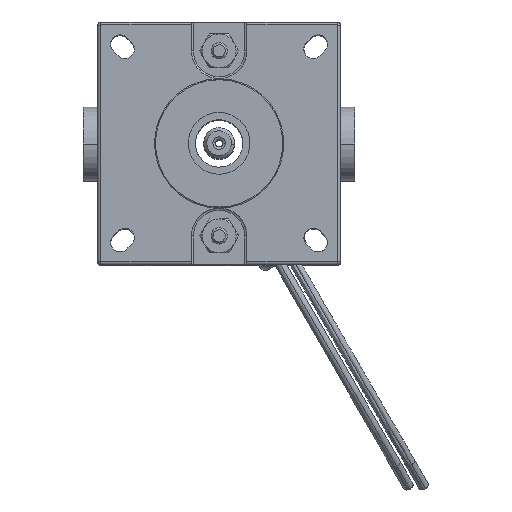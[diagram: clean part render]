
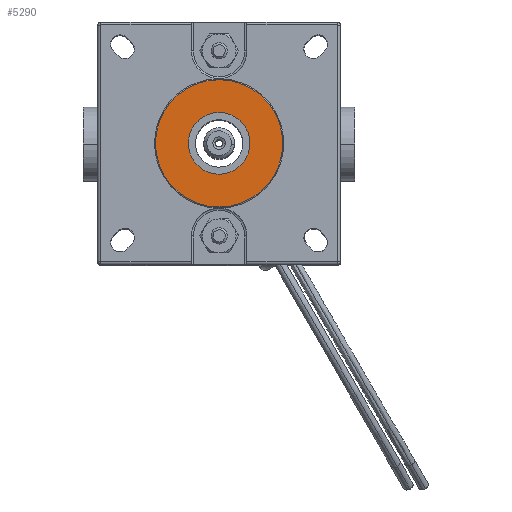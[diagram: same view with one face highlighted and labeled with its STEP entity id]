
A CAD part, top view. The second image highlights one B-rep face of the part: STEP entity #5290.
In plain terms, the highlighted planar face has unit normal (0, 0, 1).
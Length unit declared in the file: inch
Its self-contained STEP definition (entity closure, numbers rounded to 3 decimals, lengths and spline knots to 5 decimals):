
#5263 = VERTEX_POINT ( 'NONE', #9827 ) ;
#5265 = EDGE_CURVE ( 'NONE', #5263, #5267, #9844, .T. ) ;
#5267 = VERTEX_POINT ( 'NONE', #9810 ) ;
#5289 = EDGE_CURVE ( 'NONE', #5267, #5263, #9975, .T. ) ;
#5290 = ADVANCED_FACE ( 'NONE', ( #9906, #9974 ), #9909, .T. ) ;
#5291 = EDGE_LOOP ( 'NONE', ( #5336, #5337 ) ) ;
#5308 = VERTEX_POINT ( 'NONE', #9884 ) ;
#5317 = EDGE_CURVE ( 'NONE', #5318, #5308, #9940, .T. ) ;
#5318 = VERTEX_POINT ( 'NONE', #9936 ) ;
#5336 = ORIENTED_EDGE ( 'NONE', *, *, #5289, .F. ) ;
#5337 = ORIENTED_EDGE ( 'NONE', *, *, #5265, .F. ) ;
#5338 = EDGE_LOOP ( 'NONE', ( #5416, #5417 ) ) ;
#5416 = ORIENTED_EDGE ( 'NONE', *, *, #5317, .T. ) ;
#5417 = ORIENTED_EDGE ( 'NONE', *, *, #5418, .T. ) ;
#5418 = EDGE_CURVE ( 'NONE', #5308, #5318, #10129, .T. ) ;
#9810 = CARTESIAN_POINT ( 'NONE',  ( 0.3125, 0., 5.0175 ) ) ;
#9811 = DIRECTION ( 'NONE',  ( 1., 0., 0. ) ) ;
#9824 = DIRECTION ( 'NONE',  ( 0., 0., 1. ) ) ;
#9825 = CARTESIAN_POINT ( 'NONE',  ( 0., 0., 5.0175 ) ) ;
#9826 = AXIS2_PLACEMENT_3D ( 'NONE', #9825, #9824, #9811 ) ;
#9827 = CARTESIAN_POINT ( 'NONE',  ( -0.3125, 0., 5.0175 ) ) ;
#9844 = CIRCLE ( 'NONE', #9826, 0.3125 ) ;
#9884 = CARTESIAN_POINT ( 'NONE',  ( -0.645, 0., 5.0175 ) ) ;
#9905 = CARTESIAN_POINT ( 'NONE',  ( 0., 0., 5.0175 ) ) ;
#9906 = FACE_BOUND ( 'NONE', #5291, .T. ) ;
#9907 = DIRECTION ( 'NONE',  ( 0., 0., 1. ) ) ;
#9908 = DIRECTION ( 'NONE',  ( 1., 0., 0. ) ) ;
#9909 = PLANE ( 'NONE',  #9911 ) ;
#9910 = CARTESIAN_POINT ( 'NONE',  ( 0., 0., 5.0175 ) ) ;
#9911 = AXIS2_PLACEMENT_3D ( 'NONE', #9910, #9912, #9913 ) ;
#9912 = DIRECTION ( 'NONE',  ( 0., 0., 1. ) ) ;
#9913 = DIRECTION ( 'NONE',  ( 1., 0., 0. ) ) ;
#9936 = CARTESIAN_POINT ( 'NONE',  ( 0.645, 0., 5.0175 ) ) ;
#9937 = DIRECTION ( 'NONE',  ( 1., 0., 0. ) ) ;
#9938 = DIRECTION ( 'NONE',  ( 0., 0., 1. ) ) ;
#9939 = AXIS2_PLACEMENT_3D ( 'NONE', #9945, #9938, #9937 ) ;
#9940 = CIRCLE ( 'NONE', #9939, 0.645 ) ;
#9945 = CARTESIAN_POINT ( 'NONE',  ( 0., 0., 5.0175 ) ) ;
#9974 = FACE_OUTER_BOUND ( 'NONE', #5338, .T. ) ;
#9975 = CIRCLE ( 'NONE', #9978, 0.3125 ) ;
#9978 = AXIS2_PLACEMENT_3D ( 'NONE', #9905, #9907, #9908 ) ;
#10121 = DIRECTION ( 'NONE',  ( 1., 0., 0. ) ) ;
#10122 = DIRECTION ( 'NONE',  ( 0., 0., 1. ) ) ;
#10123 = CARTESIAN_POINT ( 'NONE',  ( 0., 0., 5.0175 ) ) ;
#10124 = AXIS2_PLACEMENT_3D ( 'NONE', #10123, #10122, #10121 ) ;
#10129 = CIRCLE ( 'NONE', #10124, 0.645 ) ;
